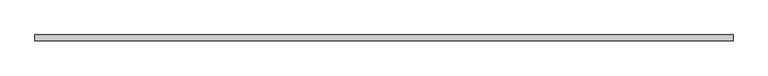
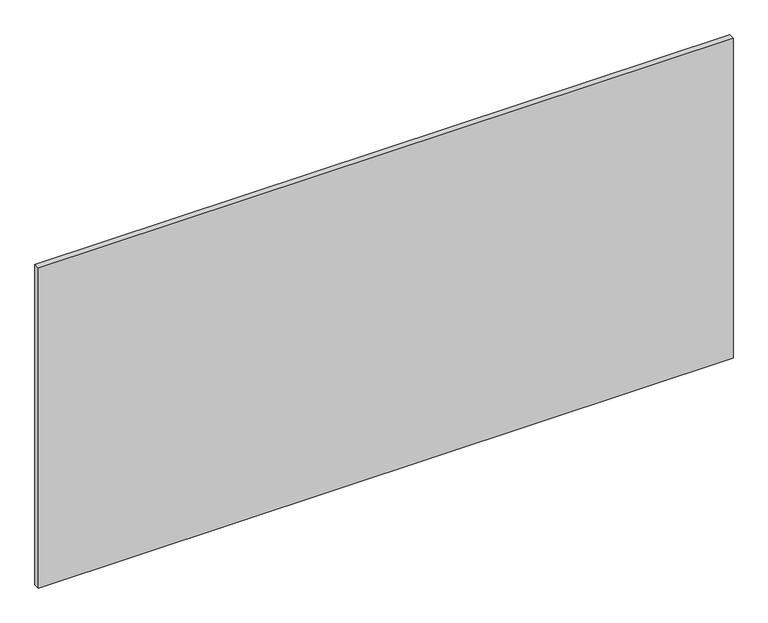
"""IFC4 building model written with IfcOpenShell, lengths in millimetres: plate geometry, Системная панель : С остеклением."""

from ifc_helpers import new_model, si_unit, origin, origin_with_axes, place, context, project, spatial, polyline, outline, extrude, source, transform, mapped, element, save


def plate_45d92d30(model_context):
    return source(origin(), model_context, "Body", "SweptSolid", [
        extrude(outline(polyline([(1462.5, -49.5), (-1462.5, -49.5), (-1462.5, -24.5), (1462.5, -24.5), (1462.5, -49.5)])), origin_with_axes(), (0.0, 0.0, 1.0), 1425.0),
    ])


if __name__ == "__main__":
    model = new_model("IFC4")
    model_context = context("Model", 3, world=origin())
    ifc_project = project(units=[si_unit("LENGTHUNIT", "METRE", prefix="MILLI")], contexts=[model_context])
    site = spatial("IfcSite", under=ifc_project)
    building = spatial("IfcBuilding", under=site)
    placement = place(None, origin())
    plate_shape = plate_45d92d30(model_context)
    element("IfcPlate", 1, ObjectType="Системная панель : С остеклением", at=placement, inside=building, context=model_context, shape_type="MappedRepresentation", body=[
        mapped(plate_shape, transform((0.0, 0.0, 0.0), x_axis=(1.0, 0.0, 0.0), y_axis=(0.0, 1.0, 0.0), z_axis=(0.0, 0.0, 1.0))),
    ])
    save(model, "model.ifc")
